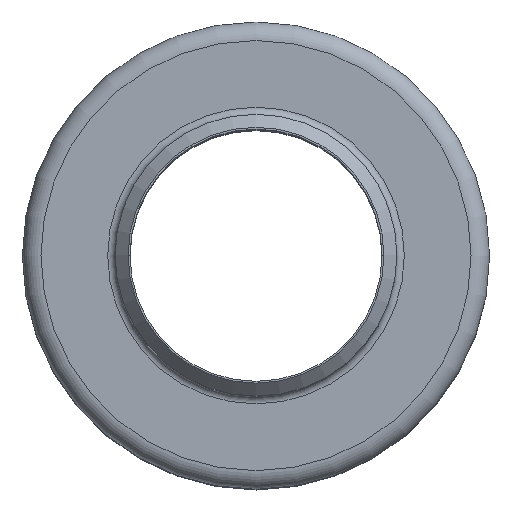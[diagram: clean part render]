
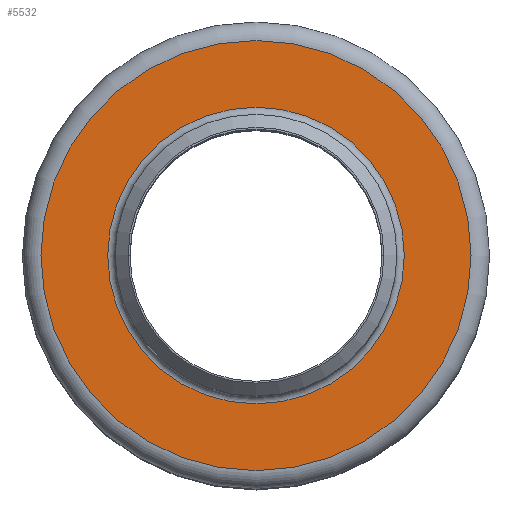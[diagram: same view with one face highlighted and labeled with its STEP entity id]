
A CAD part, top view. The second image highlights one B-rep face of the part: STEP entity #5532.
In plain terms, the highlighted planar face has unit normal (0, 0, 1).
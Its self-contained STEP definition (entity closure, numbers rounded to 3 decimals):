
#194=FACE_BOUND('',#1005,.T.);
#320=PLANE('',#5940);
#669=FACE_OUTER_BOUND('',#1004,.T.);
#1004=EDGE_LOOP('',(#4635));
#1005=EDGE_LOOP('',(#4636));
#1832=CIRCLE('',#5935,40.);
#1836=CIRCLE('',#5941,58.);
#2568=VERTEX_POINT('',#12313);
#2571=VERTEX_POINT('',#12324);
#3274=EDGE_CURVE('',#2568,#2568,#1832,.T.);
#3279=EDGE_CURVE('',#2571,#2571,#1836,.T.);
#4635=ORIENTED_EDGE('',*,*,#3279,.F.);
#4636=ORIENTED_EDGE('',*,*,#3274,.F.);
#5532=ADVANCED_FACE('',(#669,#194),#320,.F.);
#5935=AXIS2_PLACEMENT_3D('',#12315,#7051,#7052);
#5940=AXIS2_PLACEMENT_3D('',#12323,#7062,#7063);
#5941=AXIS2_PLACEMENT_3D('',#12325,#7064,#7065);
#7051=DIRECTION('center_axis',(0.,0.,1.));
#7052=DIRECTION('ref_axis',(0.,-1.,0.));
#7062=DIRECTION('center_axis',(0.,0.,-1.));
#7063=DIRECTION('ref_axis',(-1.,0.,0.));
#7064=DIRECTION('center_axis',(0.,0.,-1.));
#7065=DIRECTION('ref_axis',(1.,0.,0.));
#12313=CARTESIAN_POINT('',(40.,0.,66.5));
#12315=CARTESIAN_POINT('Origin',(0.,0.,66.5));
#12323=CARTESIAN_POINT('Origin',(0.,38.,66.5));
#12324=CARTESIAN_POINT('',(58.,0.,66.5));
#12325=CARTESIAN_POINT('Origin',(0.,0.,66.5));
